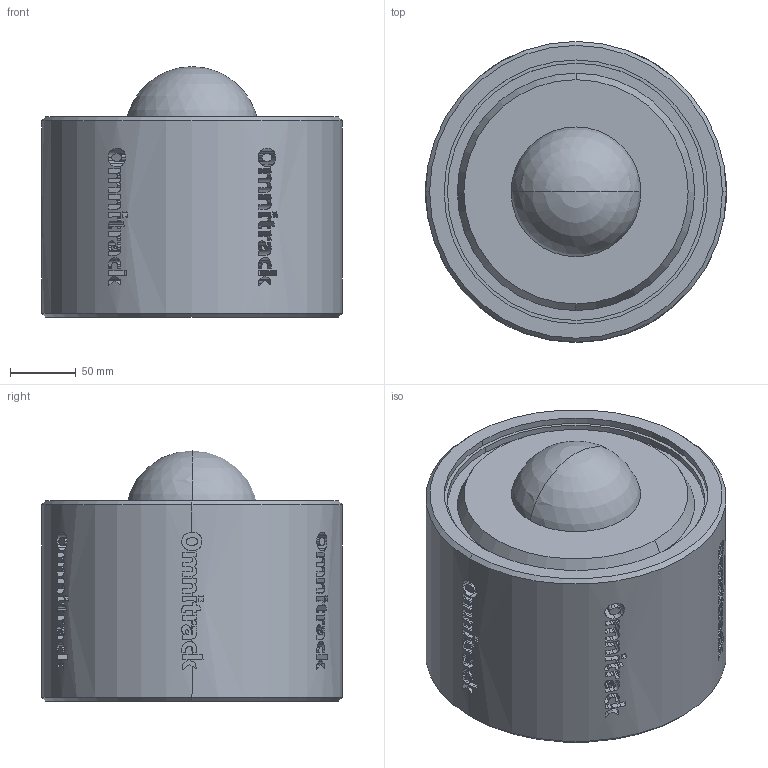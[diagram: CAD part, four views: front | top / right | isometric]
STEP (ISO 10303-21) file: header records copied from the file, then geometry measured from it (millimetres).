
FILE_DESCRIPTION((''),'2;1');
FILE_NAME('9070_ASM','2019-07-30T',('Adam Harley'),(''),'PRO/ENGINEER BY PARAMETRIC TECHNOLOGY CORPORATION, 2013320','PRO/ENGINEER BY PARAMETRIC TECHNOLOGY CORPORATION, 2013320','');
FILE_SCHEMA(('CONFIG_CONTROL_DESIGN'));
Length unit declared in the file: millimetre
Products named in the file (3): 9070WEB; 1016BALLL; 9070_ASM
Assembly tree (2 placements, depth 2):
  9070_ASM
    9070WEB
    1016BALLL
Bounding box: 228 x 228 x 190 mm (x, y, z)
Volume: 6172504.5 mm3; surface area: 324387.6 mm2
Topology: 2 solids, 2 shells, 1293 faces, 3678 edges, 2447 vertices
Faces by surface type: plane 643, extrusion 618, cylinder 22, cone 6, sphere 4
Entity records: 46172 total; most frequent: CARTESIAN_POINT 15797, ORIENTED_EDGE 7344, DIRECTION 4000, EDGE_CURVE 3672, VECTOR 2484, VERTEX_POINT 2447, B_SPLINE_CURVE_WITH_KNOTS 2346, LINE 1866
